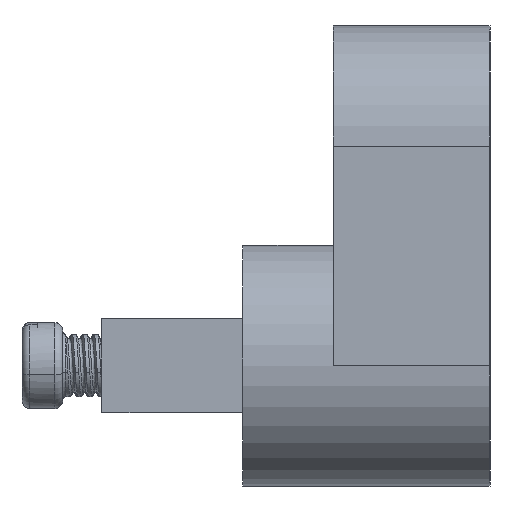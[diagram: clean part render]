
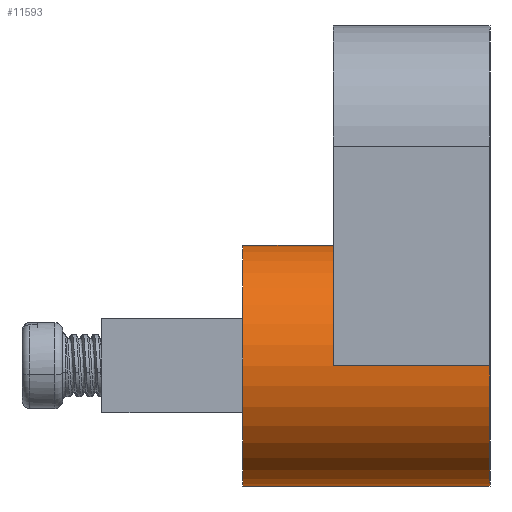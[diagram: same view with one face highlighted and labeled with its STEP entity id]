
A CAD part, left-side view. The second image highlights one B-rep face of the part: STEP entity #11593.
In plain terms, the highlighted cylindrical face has radius 7.7 mm (diameter 15.4 mm), a partial arc.
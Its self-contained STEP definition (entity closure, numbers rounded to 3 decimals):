
#536 = EDGE_CURVE ( 'NONE', #1405, #8117, #544, .T. ) ;
#544 = CIRCLE ( 'NONE', #9919, 7.7 ) ;
#1182 = CARTESIAN_POINT ( 'NONE',  ( -7.7, 0., 15.8 ) ) ;
#1271 = ORIENTED_EDGE ( 'NONE', *, *, #5323, .T. ) ;
#1337 = CARTESIAN_POINT ( 'NONE',  ( 7.7, 0., 15.8 ) ) ;
#1368 = LINE ( 'NONE', #9812, #3780 ) ;
#1405 = VERTEX_POINT ( 'NONE', #4476 ) ;
#1471 = ORIENTED_EDGE ( 'NONE', *, *, #5170, .F. ) ;
#1702 = VERTEX_POINT ( 'NONE', #3140 ) ;
#1990 = AXIS2_PLACEMENT_3D ( 'NONE', #4075, #9555, #4107 ) ;
#2380 = FACE_OUTER_BOUND ( 'NONE', #7745, .T. ) ;
#2460 = LINE ( 'NONE', #10133, #9440 ) ;
#2474 = ORIENTED_EDGE ( 'NONE', *, *, #536, .T. ) ;
#2640 = LINE ( 'NONE', #3652, #5055 ) ;
#2858 = DIRECTION ( 'NONE',  ( 0., 0., 1. ) ) ;
#3140 = CARTESIAN_POINT ( 'NONE',  ( 0., -7.7, 10. ) ) ;
#3652 = CARTESIAN_POINT ( 'NONE',  ( -7.7, 0., 10. ) ) ;
#3780 = VECTOR ( 'NONE', #8887, 1000. ) ;
#4049 = DIRECTION ( 'NONE',  ( 0., 0., 1. ) ) ;
#4075 = CARTESIAN_POINT ( 'NONE',  ( 0., 0., 10. ) ) ;
#4107 = DIRECTION ( 'NONE',  ( -1., 0., 0. ) ) ;
#4476 = CARTESIAN_POINT ( 'NONE',  ( -7.7, 0., 0. ) ) ;
#4654 = EDGE_CURVE ( 'NONE', #6494, #7999, #8003, .T. ) ;
#5055 = VECTOR ( 'NONE', #9086, 1000. ) ;
#5110 = ORIENTED_EDGE ( 'NONE', *, *, #4654, .F. ) ;
#5151 = CARTESIAN_POINT ( 'NONE',  ( 7.7, 0., 10. ) ) ;
#5170 = EDGE_CURVE ( 'NONE', #7999, #7070, #2460, .T. ) ;
#5293 = CARTESIAN_POINT ( 'NONE',  ( 0., 0., 10. ) ) ;
#5323 = EDGE_CURVE ( 'NONE', #1702, #7070, #9860, .T. ) ;
#5777 = AXIS2_PLACEMENT_3D ( 'NONE', #9483, #4049, #10432 ) ;
#6215 = DIRECTION ( 'NONE',  ( 1., 0., 0. ) ) ;
#6494 = VERTEX_POINT ( 'NONE', #1182 ) ;
#7070 = VERTEX_POINT ( 'NONE', #5151 ) ;
#7378 = DIRECTION ( 'NONE',  ( 1., 0., 0. ) ) ;
#7745 = EDGE_LOOP ( 'NONE', ( #1471, #5110, #10148, #2474, #8554, #1271 ) ) ;
#7884 = EDGE_CURVE ( 'NONE', #6494, #1405, #2640, .T. ) ;
#7999 = VERTEX_POINT ( 'NONE', #1337 ) ;
#8003 = CIRCLE ( 'NONE', #5777, 7.7 ) ;
#8117 = VERTEX_POINT ( 'NONE', #9616 ) ;
#8243 = EDGE_CURVE ( 'NONE', #1702, #8117, #1368, .T. ) ;
#8310 = CARTESIAN_POINT ( 'NONE',  ( 0., 0., 0. ) ) ;
#8554 = ORIENTED_EDGE ( 'NONE', *, *, #8243, .F. ) ;
#8887 = DIRECTION ( 'NONE',  ( 0., 0., -1. ) ) ;
#9086 = DIRECTION ( 'NONE',  ( 0., 0., -1. ) ) ;
#9366 = CYLINDRICAL_SURFACE ( 'NONE', #1990, 7.7 ) ;
#9440 = VECTOR ( 'NONE', #11041, 1000. ) ;
#9483 = CARTESIAN_POINT ( 'NONE',  ( 0., 0., 15.8 ) ) ;
#9555 = DIRECTION ( 'NONE',  ( 0., 0., -1. ) ) ;
#9616 = CARTESIAN_POINT ( 'NONE',  ( 0., -7.7, 0. ) ) ;
#9812 = CARTESIAN_POINT ( 'NONE',  ( 0., -7.7, 10. ) ) ;
#9860 = CIRCLE ( 'NONE', #11450, 7.7 ) ;
#9919 = AXIS2_PLACEMENT_3D ( 'NONE', #8310, #2858, #7378 ) ;
#10133 = CARTESIAN_POINT ( 'NONE',  ( 7.7, 0., 10. ) ) ;
#10148 = ORIENTED_EDGE ( 'NONE', *, *, #7884, .T. ) ;
#10432 = DIRECTION ( 'NONE',  ( 1., 0., 0. ) ) ;
#11041 = DIRECTION ( 'NONE',  ( 0., 0., -1. ) ) ;
#11450 = AXIS2_PLACEMENT_3D ( 'NONE', #5293, #11694, #6215 ) ;
#11593 = ADVANCED_FACE ( 'NONE', ( #2380 ), #9366, .T. ) ;
#11694 = DIRECTION ( 'NONE',  ( 0., 0., 1. ) ) ;
